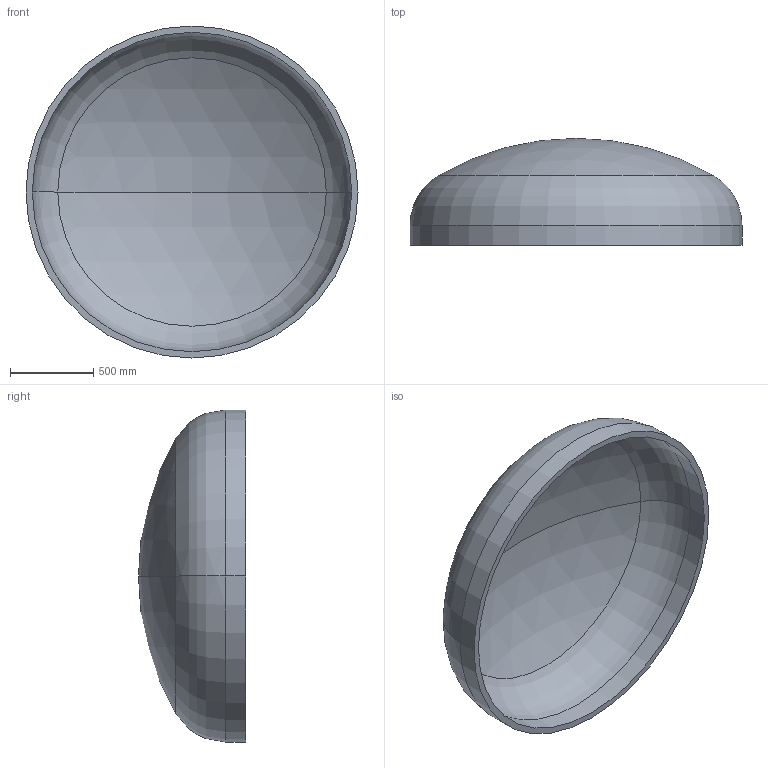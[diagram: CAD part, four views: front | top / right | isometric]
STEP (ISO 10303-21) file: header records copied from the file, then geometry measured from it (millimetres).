
FILE_DESCRIPTION (( 'STEP AP203' ), '1' );
FILE_NAME ('DIN 28013 Korbbogenform_-_Boden DIN 28013 - 2000 x 120 - I - s=38.step', '2016-07-01T13:50:25', ( '' ), ( '' ), 'SwSTEP 2.0', 'SolidWorks 2013', '' );
FILE_SCHEMA (( 'CONFIG_CONTROL_DESIGN' ));
Length unit declared in the file: millimetre
Products named in the file (1): DIN 28013 Korbbogenform_-_Boden DIN 28013 - 2000 x 120 - I - s=38
Bounding box: 2000 x 644.9 x 2000 mm (x, y, z)
Volume: 189567695 mm3; surface area: 10214492.8 mm2
Topology: 1 solids, 1 shells, 13 faces, 24 edges, 14 vertices
Faces by surface type: torus 4, cylinder 4, sphere 4, plane 1
Entity records: 407 total; most frequent: DIRECTION 72, CARTESIAN_POINT 52, ORIENTED_EDGE 48, AXIS2_PLACEMENT_3D 34, EDGE_CURVE 24, CIRCLE 20, VERTEX_POINT 14, EDGE_LOOP 14
